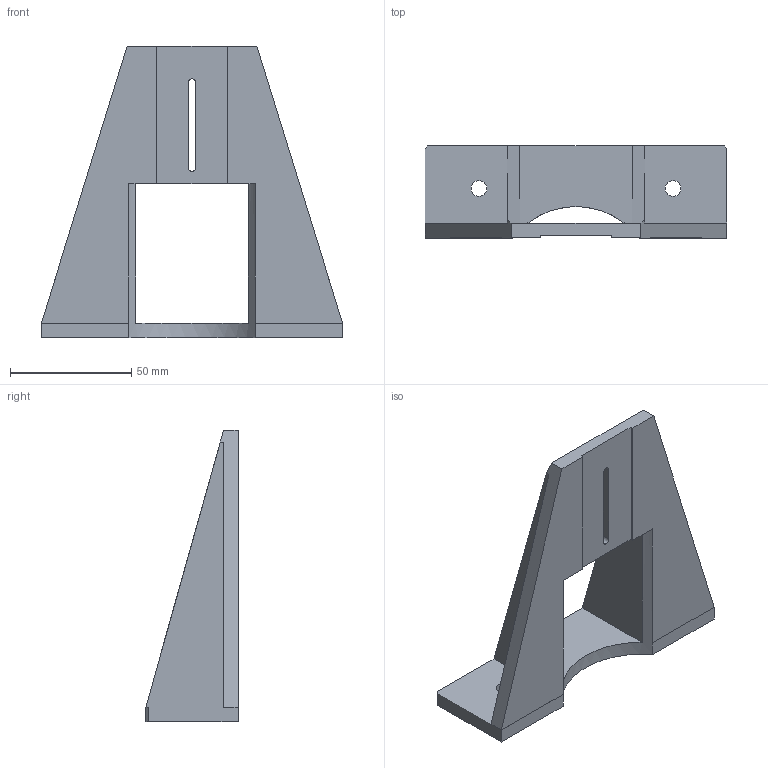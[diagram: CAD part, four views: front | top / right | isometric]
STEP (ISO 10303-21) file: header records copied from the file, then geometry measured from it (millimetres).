
FILE_DESCRIPTION(/* description */ (''),/* implementation_level */ '2;1');
FILE_NAME(/* name */ 'CAM_MNT_HPFD_Winkel.step',/* time_stamp */ '2023-02-03T10:26:51+01:00',/* author */ (''),/* organization */ (''),/* preprocessor_version */ 'ST-DEVELOPER v19.2',/* originating_system */ 'Autodesk Translation Framework v11.17.0.187',/* authorisation */ '');
FILE_SCHEMA (('AUTOMOTIVE_DESIGN { 1 0 10303 214 3 1 1 }'));
Length unit declared in the file: millimetre
Products named in the file (2): TPL_HPFD_Aluminium; Halterung_neu
Assembly tree (1 placements, depth 2):
  TPL_HPFD_Aluminium
    Halterung_neu
Bounding box: 124 x 38.01 x 120 mm (x, y, z)
Volume: 85185 mm3; surface area: 34784.7 mm2
Topology: 1 solids, 1 shells, 38 faces, 108 edges, 70 vertices
Faces by surface type: plane 33, cylinder 5
Full cylindrical faces by diameter (mm): 6.5 x2
Entity records: 1303 total; most frequent: CARTESIAN_POINT 220, ORIENTED_EDGE 216, DIRECTION 206, EDGE_CURVE 108, LINE 94, VECTOR 94, VERTEX_POINT 70, AXIS2_PLACEMENT_3D 56
